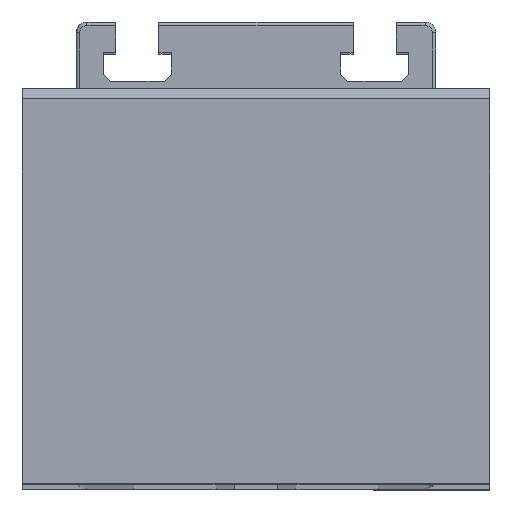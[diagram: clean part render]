
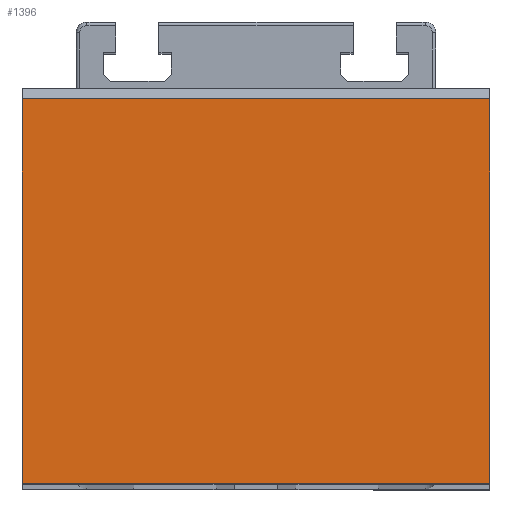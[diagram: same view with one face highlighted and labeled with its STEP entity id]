
A CAD part, top view. The second image highlights one B-rep face of the part: STEP entity #1396.
In plain terms, the highlighted planar face has unit normal (0, 0, 1).
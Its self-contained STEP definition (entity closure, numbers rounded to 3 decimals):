
#132 = ORIENTED_EDGE ( 'NONE', *, *, #3917, .T. ) ;
#391 = CARTESIAN_POINT ( 'NONE',  ( 130., 0., 55. ) ) ;
#460 = CARTESIAN_POINT ( 'NONE',  ( 0., 0., 55. ) ) ;
#563 = CARTESIAN_POINT ( 'NONE',  ( 130., 107., 55. ) ) ;
#1192 = PLANE ( 'NONE',  #3536 ) ;
#1370 = VERTEX_POINT ( 'NONE', #563 ) ;
#1396 = ADVANCED_FACE ( 'NONE', ( #2307 ), #1192, .F. ) ;
#2091 = DIRECTION ( 'NONE',  ( -1., 0., 0. ) ) ;
#2127 = LINE ( 'NONE', #460, #3667 ) ;
#2307 = FACE_OUTER_BOUND ( 'NONE', #4306, .T. ) ;
#2323 = CARTESIAN_POINT ( 'NONE',  ( 130., 0., 55. ) ) ;
#2644 = VERTEX_POINT ( 'NONE', #4470 ) ;
#2648 = DIRECTION ( 'NONE',  ( 0., -1., 0. ) ) ;
#2826 = DIRECTION ( 'NONE',  ( 0., 0., -1. ) ) ;
#2982 = EDGE_CURVE ( 'NONE', #1370, #2644, #7212, .T. ) ;
#3244 = LINE ( 'NONE', #4983, #4679 ) ;
#3384 = CARTESIAN_POINT ( 'NONE',  ( 130., 0., 55. ) ) ;
#3536 = AXIS2_PLACEMENT_3D ( 'NONE', #3384, #2826, #6170 ) ;
#3667 = VECTOR ( 'NONE', #4394, 1000. ) ;
#3787 = EDGE_CURVE ( 'NONE', #1370, #6172, #4317, .T. ) ;
#3917 = EDGE_CURVE ( 'NONE', #2644, #4974, #2127, .T. ) ;
#4306 = EDGE_LOOP ( 'NONE', ( #5293, #4675, #132, #6565 ) ) ;
#4317 = LINE ( 'NONE', #391, #7265 ) ;
#4394 = DIRECTION ( 'NONE',  ( 0., -1., 0. ) ) ;
#4470 = CARTESIAN_POINT ( 'NONE',  ( 0., 107., 55. ) ) ;
#4675 = ORIENTED_EDGE ( 'NONE', *, *, #2982, .T. ) ;
#4679 = VECTOR ( 'NONE', #2091, 1000. ) ;
#4974 = VERTEX_POINT ( 'NONE', #7001 ) ;
#4978 = CARTESIAN_POINT ( 'NONE',  ( 130., 107., 55. ) ) ;
#4983 = CARTESIAN_POINT ( 'NONE',  ( 130., 0., 55. ) ) ;
#5293 = ORIENTED_EDGE ( 'NONE', *, *, #3787, .F. ) ;
#5305 = EDGE_CURVE ( 'NONE', #6172, #4974, #3244, .T. ) ;
#6126 = DIRECTION ( 'NONE',  ( -1., 0., 0. ) ) ;
#6170 = DIRECTION ( 'NONE',  ( -1., 0., 0. ) ) ;
#6172 = VERTEX_POINT ( 'NONE', #2323 ) ;
#6565 = ORIENTED_EDGE ( 'NONE', *, *, #5305, .F. ) ;
#7001 = CARTESIAN_POINT ( 'NONE',  ( 0., 0., 55. ) ) ;
#7098 = VECTOR ( 'NONE', #6126, 1000. ) ;
#7212 = LINE ( 'NONE', #4978, #7098 ) ;
#7265 = VECTOR ( 'NONE', #2648, 1000. ) ;
